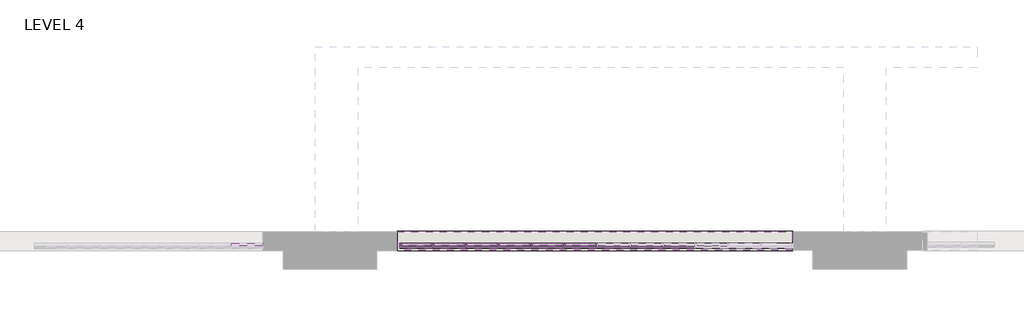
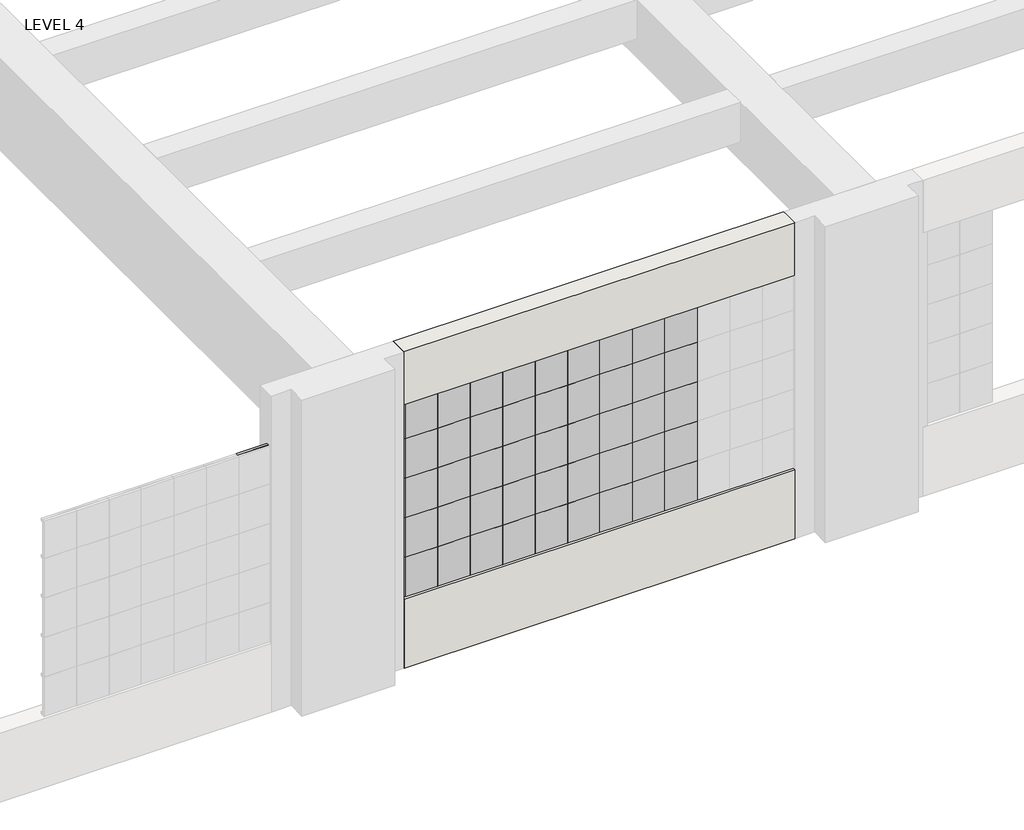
# One storey, part 2 of 26: 84 members, 45 plates, 2 walls.
"""IFC4 building model written with IfcOpenShell, lengths in millimetres."""

from ifc_helpers import new_model, si_unit, frame, origin, origin_with_axes, place, context, project, spatial, polyline, outline, extrude, transform, mapped, element, save
from components import member_038dcf1c, member_0e6c94ff, member_d9fec558, member_3d4b608b, member_3c10d71f, member_653bb31e, member_9ec6e97d, member_6e26db71, member_a1b9a255, member_f56b15f9, system_panel_glazed_ab35d819, system_panel_glazed_418eb6cd

model = new_model("IFC4")

# Units and contexts
model_context = context("Model", 3, world=origin())
ifc_project = project(units=[si_unit("LENGTHUNIT", "METRE", prefix="MILLI")], contexts=[model_context])

# Site, building, storey
site = spatial("IfcSite", under=ifc_project)
building = spatial("IfcBuilding", under=site)
storey = spatial("IfcBuildingStorey", under=building, Name="LEVEL 4", Elevation=0.0)

# Members
placement = place(None, origin())
member_shape = member_038dcf1c(model_context)
element("IfcMember", 1, ObjectType="Circular Mullion : 1 1/4\" Square", at=placement, inside=storey, context=model_context, shape_type="MappedRepresentation", body=[
    mapped(member_shape, transform((-42347.3709473, 87287.1352667, 2628.9), x_axis=(-1.0, 0.0, 0.0), y_axis=(0.0, -1.0, 0.0), z_axis=(0.0, 0.0, 1.0))),
])
element("IfcMember", 2, ObjectType="Circular Mullion : 1 1/4\" Square", at=placement, inside=storey, context=model_context, shape_type="MappedRepresentation", body=[
    mapped(member_shape, transform((-42347.3709473, 87287.1352667, 2171.7), x_axis=(-1.0, 0.0, 0.0), y_axis=(0.0, -1.0, 0.0), z_axis=(0.0, 0.0, 1.0))),
])
element("IfcMember", 3, ObjectType="Circular Mullion : 1 1/4\" Square", at=placement, inside=storey, context=model_context, shape_type="MappedRepresentation", body=[
    mapped(member_shape, transform((-42347.3709473, 87287.1352667, 1714.5), x_axis=(-1.0, 0.0, 0.0), y_axis=(0.0, -1.0, 0.0), z_axis=(0.0, 0.0, 1.0))),
])
element("IfcMember", 4, ObjectType="Circular Mullion : 1 1/4\" Square", at=placement, inside=storey, context=model_context, shape_type="MappedRepresentation", body=[
    mapped(member_shape, transform((-42347.3709473, 87287.1352667, 1257.3), x_axis=(-1.0, 0.0, 0.0), y_axis=(0.0, -1.0, 0.0), z_axis=(0.0, 0.0, 1.0))),
])
member_2_shape = member_0e6c94ff(model_context)
element("IfcMember", 5, ObjectType="Circular Mullion : 1 1/4\" Square", at=placement, inside=storey, context=model_context, shape_type="MappedRepresentation", body=[
    mapped(member_2_shape, transform((-42347.3709473, 87287.1352667, 3060.7), x_axis=(-1.0, 0.0, 0.0), y_axis=(0.0, -1.0, 0.0), z_axis=(0.0, 0.0, 1.0))),
])
member_3_shape = member_d9fec558(model_context)
element("IfcMember", 6, ObjectType="Circular Mullion : 1 1/4\" Square", at=placement, inside=storey, context=model_context, shape_type="MappedRepresentation", body=[
    mapped(member_3_shape, transform((-40213.770947, 87287.1352667, 2628.9), x_axis=(1.0, 0.0, 0.0), y_axis=(0.0, -1.0, 0.0), z_axis=(0.0, 0.0, -1.0))),
])
element("IfcMember", 7, ObjectType="Circular Mullion : 1 1/4\" Square", at=placement, inside=storey, context=model_context, shape_type="MappedRepresentation", body=[
    mapped(member_3_shape, transform((-40569.370947, 87287.1352667, 2628.9), x_axis=(1.0, 0.0, 0.0), y_axis=(0.0, -1.0, 0.0), z_axis=(0.0, 0.0, -1.0))),
])
element("IfcMember", 8, ObjectType="Circular Mullion : 1 1/4\" Square", at=placement, inside=storey, context=model_context, shape_type="MappedRepresentation", body=[
    mapped(member_3_shape, transform((-40924.970947, 87287.1352667, 2628.9), x_axis=(1.0, 0.0, 0.0), y_axis=(0.0, -1.0, 0.0), z_axis=(0.0, 0.0, -1.0))),
])
element("IfcMember", 9, ObjectType="Circular Mullion : 1 1/4\" Square", at=placement, inside=storey, context=model_context, shape_type="MappedRepresentation", body=[
    mapped(member_3_shape, transform((-41280.570947, 87287.1352667, 2628.9), x_axis=(1.0, 0.0, 0.0), y_axis=(0.0, -1.0, 0.0), z_axis=(0.0, 0.0, -1.0))),
])
element("IfcMember", 10, ObjectType="Circular Mullion : 1 1/4\" Square", at=placement, inside=storey, context=model_context, shape_type="MappedRepresentation", body=[
    mapped(member_3_shape, transform((-41636.170947, 87287.1352667, 2628.9), x_axis=(1.0, 0.0, 0.0), y_axis=(0.0, -1.0, 0.0), z_axis=(0.0, 0.0, -1.0))),
])
element("IfcMember", 11, ObjectType="Circular Mullion : 1 1/4\" Square", at=placement, inside=storey, context=model_context, shape_type="MappedRepresentation", body=[
    mapped(member_3_shape, transform((-41991.770947, 87287.1352667, 2628.9), x_axis=(1.0, 0.0, 0.0), y_axis=(0.0, -1.0, 0.0), z_axis=(0.0, 0.0, -1.0))),
])
member_4_shape = member_3d4b608b(model_context)
element("IfcMember", 12, ObjectType="Circular Mullion : 1 1/4\" Square", at=placement, inside=storey, context=model_context, shape_type="MappedRepresentation", body=[
    mapped(member_4_shape, transform((-40213.770947, 87287.1352667, 2171.7), x_axis=(1.0, 0.0, 0.0), y_axis=(0.0, -1.0, 0.0), z_axis=(0.0, 0.0, -1.0))),
])
element("IfcMember", 13, ObjectType="Circular Mullion : 1 1/4\" Square", at=placement, inside=storey, context=model_context, shape_type="MappedRepresentation", body=[
    mapped(member_4_shape, transform((-40213.770947, 87287.1352667, 1714.5), x_axis=(1.0, 0.0, 0.0), y_axis=(0.0, -1.0, 0.0), z_axis=(0.0, 0.0, -1.0))),
])
element("IfcMember", 14, ObjectType="Circular Mullion : 1 1/4\" Square", at=placement, inside=storey, context=model_context, shape_type="MappedRepresentation", body=[
    mapped(member_4_shape, transform((-40213.770947, 87287.1352667, 1257.3), x_axis=(1.0, 0.0, 0.0), y_axis=(0.0, -1.0, 0.0), z_axis=(0.0, 0.0, -1.0))),
])
element("IfcMember", 15, ObjectType="Circular Mullion : 1 1/4\" Square", at=placement, inside=storey, context=model_context, shape_type="MappedRepresentation", body=[
    mapped(member_4_shape, transform((-40569.370947, 87287.1352667, 2171.7), x_axis=(1.0, 0.0, 0.0), y_axis=(0.0, -1.0, 0.0), z_axis=(0.0, 0.0, -1.0))),
])
element("IfcMember", 16, ObjectType="Circular Mullion : 1 1/4\" Square", at=placement, inside=storey, context=model_context, shape_type="MappedRepresentation", body=[
    mapped(member_4_shape, transform((-40569.370947, 87287.1352667, 1714.5), x_axis=(1.0, 0.0, 0.0), y_axis=(0.0, -1.0, 0.0), z_axis=(0.0, 0.0, -1.0))),
])
element("IfcMember", 17, ObjectType="Circular Mullion : 1 1/4\" Square", at=placement, inside=storey, context=model_context, shape_type="MappedRepresentation", body=[
    mapped(member_4_shape, transform((-40569.370947, 87287.1352667, 1257.3), x_axis=(1.0, 0.0, 0.0), y_axis=(0.0, -1.0, 0.0), z_axis=(0.0, 0.0, -1.0))),
])
element("IfcMember", 18, ObjectType="Circular Mullion : 1 1/4\" Square", at=placement, inside=storey, context=model_context, shape_type="MappedRepresentation", body=[
    mapped(member_4_shape, transform((-40924.970947, 87287.1352667, 2171.7), x_axis=(1.0, 0.0, 0.0), y_axis=(0.0, -1.0, 0.0), z_axis=(0.0, 0.0, -1.0))),
])
element("IfcMember", 19, ObjectType="Circular Mullion : 1 1/4\" Square", at=placement, inside=storey, context=model_context, shape_type="MappedRepresentation", body=[
    mapped(member_4_shape, transform((-40924.970947, 87287.1352667, 1714.5), x_axis=(1.0, 0.0, 0.0), y_axis=(0.0, -1.0, 0.0), z_axis=(0.0, 0.0, -1.0))),
])
element("IfcMember", 20, ObjectType="Circular Mullion : 1 1/4\" Square", at=placement, inside=storey, context=model_context, shape_type="MappedRepresentation", body=[
    mapped(member_4_shape, transform((-40924.970947, 87287.1352667, 1257.3), x_axis=(1.0, 0.0, 0.0), y_axis=(0.0, -1.0, 0.0), z_axis=(0.0, 0.0, -1.0))),
])
element("IfcMember", 21, ObjectType="Circular Mullion : 1 1/4\" Square", at=placement, inside=storey, context=model_context, shape_type="MappedRepresentation", body=[
    mapped(member_4_shape, transform((-41280.570947, 87287.1352667, 2171.7), x_axis=(1.0, 0.0, 0.0), y_axis=(0.0, -1.0, 0.0), z_axis=(0.0, 0.0, -1.0))),
])
element("IfcMember", 22, ObjectType="Circular Mullion : 1 1/4\" Square", at=placement, inside=storey, context=model_context, shape_type="MappedRepresentation", body=[
    mapped(member_4_shape, transform((-41280.570947, 87287.1352667, 1714.5), x_axis=(1.0, 0.0, 0.0), y_axis=(0.0, -1.0, 0.0), z_axis=(0.0, 0.0, -1.0))),
])
element("IfcMember", 23, ObjectType="Circular Mullion : 1 1/4\" Square", at=placement, inside=storey, context=model_context, shape_type="MappedRepresentation", body=[
    mapped(member_4_shape, transform((-41280.570947, 87287.1352667, 1257.3), x_axis=(1.0, 0.0, 0.0), y_axis=(0.0, -1.0, 0.0), z_axis=(0.0, 0.0, -1.0))),
])
element("IfcMember", 24, ObjectType="Circular Mullion : 1 1/4\" Square", at=placement, inside=storey, context=model_context, shape_type="MappedRepresentation", body=[
    mapped(member_4_shape, transform((-41636.170947, 87287.1352667, 2171.7), x_axis=(1.0, 0.0, 0.0), y_axis=(0.0, -1.0, 0.0), z_axis=(0.0, 0.0, -1.0))),
])
element("IfcMember", 25, ObjectType="Circular Mullion : 1 1/4\" Square", at=placement, inside=storey, context=model_context, shape_type="MappedRepresentation", body=[
    mapped(member_4_shape, transform((-41636.170947, 87287.1352667, 1714.5), x_axis=(1.0, 0.0, 0.0), y_axis=(0.0, -1.0, 0.0), z_axis=(0.0, 0.0, -1.0))),
])
element("IfcMember", 26, ObjectType="Circular Mullion : 1 1/4\" Square", at=placement, inside=storey, context=model_context, shape_type="MappedRepresentation", body=[
    mapped(member_4_shape, transform((-41636.170947, 87287.1352667, 1257.3), x_axis=(1.0, 0.0, 0.0), y_axis=(0.0, -1.0, 0.0), z_axis=(0.0, 0.0, -1.0))),
])
element("IfcMember", 27, ObjectType="Circular Mullion : 1 1/4\" Square", at=placement, inside=storey, context=model_context, shape_type="MappedRepresentation", body=[
    mapped(member_4_shape, transform((-41991.770947, 87287.1352667, 2171.7), x_axis=(1.0, 0.0, 0.0), y_axis=(0.0, -1.0, 0.0), z_axis=(0.0, 0.0, -1.0))),
])
element("IfcMember", 28, ObjectType="Circular Mullion : 1 1/4\" Square", at=placement, inside=storey, context=model_context, shape_type="MappedRepresentation", body=[
    mapped(member_4_shape, transform((-41991.770947, 87287.1352667, 1714.5), x_axis=(1.0, 0.0, 0.0), y_axis=(0.0, -1.0, 0.0), z_axis=(0.0, 0.0, -1.0))),
])
element("IfcMember", 29, ObjectType="Circular Mullion : 1 1/4\" Square", at=placement, inside=storey, context=model_context, shape_type="MappedRepresentation", body=[
    mapped(member_4_shape, transform((-41991.770947, 87287.1352667, 1257.3), x_axis=(1.0, 0.0, 0.0), y_axis=(0.0, -1.0, 0.0), z_axis=(0.0, 0.0, -1.0))),
])
element("IfcMember", 30, ObjectType="Circular Mullion : 1 1/4\" Square", at=placement, inside=storey, context=model_context, shape_type="MappedRepresentation", body=[
    mapped(member_4_shape, transform((-40213.770947, 87287.1352667, 800.1), x_axis=(1.0, 0.0, 0.0), y_axis=(0.0, -1.0, 0.0), z_axis=(0.0, 0.0, -1.0))),
])
element("IfcMember", 31, ObjectType="Circular Mullion : 1 1/4\" Square", at=placement, inside=storey, context=model_context, shape_type="MappedRepresentation", body=[
    mapped(member_4_shape, transform((-40569.370947, 87287.1352667, 800.1), x_axis=(1.0, 0.0, 0.0), y_axis=(0.0, -1.0, 0.0), z_axis=(0.0, 0.0, -1.0))),
])
element("IfcMember", 32, ObjectType="Circular Mullion : 1 1/4\" Square", at=placement, inside=storey, context=model_context, shape_type="MappedRepresentation", body=[
    mapped(member_4_shape, transform((-40924.970947, 87287.1352667, 800.1), x_axis=(1.0, 0.0, 0.0), y_axis=(0.0, -1.0, 0.0), z_axis=(0.0, 0.0, -1.0))),
])
element("IfcMember", 33, ObjectType="Circular Mullion : 1 1/4\" Square", at=placement, inside=storey, context=model_context, shape_type="MappedRepresentation", body=[
    mapped(member_4_shape, transform((-41280.570947, 87287.1352667, 800.1), x_axis=(1.0, 0.0, 0.0), y_axis=(0.0, -1.0, 0.0), z_axis=(0.0, 0.0, -1.0))),
])
element("IfcMember", 34, ObjectType="Circular Mullion : 1 1/4\" Square", at=placement, inside=storey, context=model_context, shape_type="MappedRepresentation", body=[
    mapped(member_4_shape, transform((-41636.170947, 87287.1352667, 800.1), x_axis=(1.0, 0.0, 0.0), y_axis=(0.0, -1.0, 0.0), z_axis=(0.0, 0.0, -1.0))),
])
element("IfcMember", 35, ObjectType="Circular Mullion : 1 1/4\" Square", at=placement, inside=storey, context=model_context, shape_type="MappedRepresentation", body=[
    mapped(member_4_shape, transform((-41991.770947, 87287.1352667, 800.1), x_axis=(1.0, 0.0, 0.0), y_axis=(0.0, -1.0, 0.0), z_axis=(0.0, 0.0, -1.0))),
])
member_5_shape = member_3c10d71f(model_context)
element("IfcMember", 36, ObjectType="Circular Mullion : 1 1/4\" Square", at=placement, inside=storey, context=model_context, shape_type="MappedRepresentation", body=[
    mapped(member_5_shape, transform((-41648.870947, 87287.1352667, 3060.7), x_axis=(0.0, 0.0, 1.0), y_axis=(0.0, -1.0, 0.0), z_axis=(1.0, 0.0, 0.0))),
])
element("IfcMember", 37, ObjectType="Circular Mullion : 1 1/4\" Square", at=placement, inside=storey, context=model_context, shape_type="MappedRepresentation", body=[
    mapped(member_5_shape, transform((-41293.270947, 87287.1352667, 3060.7), x_axis=(0.0, 0.0, 1.0), y_axis=(0.0, -1.0, 0.0), z_axis=(1.0, 0.0, 0.0))),
])
element("IfcMember", 38, ObjectType="Circular Mullion : 1 1/4\" Square", at=placement, inside=storey, context=model_context, shape_type="MappedRepresentation", body=[
    mapped(member_5_shape, transform((-40937.670947, 87287.1352667, 3060.7), x_axis=(0.0, 0.0, 1.0), y_axis=(0.0, -1.0, 0.0), z_axis=(1.0, 0.0, 0.0))),
])
element("IfcMember", 39, ObjectType="Circular Mullion : 1 1/4\" Square", at=placement, inside=storey, context=model_context, shape_type="MappedRepresentation", body=[
    mapped(member_5_shape, transform((-40582.070947, 87287.1352667, 3060.7), x_axis=(0.0, 0.0, 1.0), y_axis=(0.0, -1.0, 0.0), z_axis=(1.0, 0.0, 0.0))),
])
element("IfcMember", 40, ObjectType="Circular Mullion : 1 1/4\" Square", at=placement, inside=storey, context=model_context, shape_type="MappedRepresentation", body=[
    mapped(member_5_shape, transform((-40226.470947, 87287.1352667, 3060.7), x_axis=(0.0, 0.0, 1.0), y_axis=(0.0, -1.0, 0.0), z_axis=(1.0, 0.0, 0.0))),
])
element("IfcMember", 41, ObjectType="Circular Mullion : 1 1/4\" Square", at=placement, inside=storey, context=model_context, shape_type="MappedRepresentation", body=[
    mapped(member_5_shape, transform((-39870.870947, 87287.1352667, 3060.7), x_axis=(0.0, 0.0, 1.0), y_axis=(0.0, -1.0, 0.0), z_axis=(1.0, 0.0, 0.0))),
])
element("IfcMember", 42, ObjectType="Circular Mullion : 1 1/4\" Square", at=placement, inside=storey, context=model_context, shape_type="MappedRepresentation", body=[
    mapped(member_5_shape, transform((-39515.270947, 87287.1352667, 3060.7), x_axis=(0.0, 0.0, 1.0), y_axis=(0.0, -1.0, 0.0), z_axis=(1.0, 0.0, 0.0))),
])
element("IfcMember", 43, ObjectType="Circular Mullion : 1 1/4\" Square", at=placement, inside=storey, context=model_context, shape_type="MappedRepresentation", body=[
    mapped(member_5_shape, transform((-39159.670947, 87287.1352667, 3060.7), x_axis=(0.0, 0.0, 1.0), y_axis=(0.0, -1.0, 0.0), z_axis=(1.0, 0.0, 0.0))),
])
element("IfcMember", 44, ObjectType="Circular Mullion : 1 1/4\" Square", at=placement, inside=storey, context=model_context, shape_type="MappedRepresentation", body=[
    mapped(member_5_shape, transform((-41623.470947, 87287.1352667, 800.1), x_axis=(0.0, 0.0, -1.0), y_axis=(0.0, -1.0, 0.0), z_axis=(-1.0, 0.0, 0.0))),
])
element("IfcMember", 45, ObjectType="Circular Mullion : 1 1/4\" Square", at=placement, inside=storey, context=model_context, shape_type="MappedRepresentation", body=[
    mapped(member_5_shape, transform((-41979.070947, 87287.1352667, 800.1), x_axis=(0.0, 0.0, -1.0), y_axis=(0.0, -1.0, 0.0), z_axis=(-1.0, 0.0, 0.0))),
])
element("IfcMember", 46, ObjectType="Circular Mullion : 1 1/4\" Square", at=placement, inside=storey, context=model_context, shape_type="MappedRepresentation", body=[
    mapped(member_5_shape, transform((-41267.870947, 87287.1352667, 800.1), x_axis=(0.0, 0.0, -1.0), y_axis=(0.0, -1.0, 0.0), z_axis=(-1.0, 0.0, 0.0))),
])
element("IfcMember", 47, ObjectType="Circular Mullion : 1 1/4\" Square", at=placement, inside=storey, context=model_context, shape_type="MappedRepresentation", body=[
    mapped(member_5_shape, transform((-40912.270947, 87287.1352667, 800.1), x_axis=(0.0, 0.0, -1.0), y_axis=(0.0, -1.0, 0.0), z_axis=(-1.0, 0.0, 0.0))),
])
element("IfcMember", 48, ObjectType="Circular Mullion : 1 1/4\" Square", at=placement, inside=storey, context=model_context, shape_type="MappedRepresentation", body=[
    mapped(member_5_shape, transform((-40556.670947, 87287.1352667, 800.1), x_axis=(0.0, 0.0, -1.0), y_axis=(0.0, -1.0, 0.0), z_axis=(-1.0, 0.0, 0.0))),
])
element("IfcMember", 49, ObjectType="Circular Mullion : 1 1/4\" Square", at=placement, inside=storey, context=model_context, shape_type="MappedRepresentation", body=[
    mapped(member_5_shape, transform((-40201.070947, 87287.1352667, 800.1), x_axis=(0.0, 0.0, -1.0), y_axis=(0.0, -1.0, 0.0), z_axis=(-1.0, 0.0, 0.0))),
])
element("IfcMember", 50, ObjectType="Circular Mullion : 1 1/4\" Square", at=placement, inside=storey, context=model_context, shape_type="MappedRepresentation", body=[
    mapped(member_5_shape, transform((-39845.470947, 87287.1352667, 800.1), x_axis=(0.0, 0.0, -1.0), y_axis=(0.0, -1.0, 0.0), z_axis=(-1.0, 0.0, 0.0))),
])
element("IfcMember", 51, ObjectType="Circular Mullion : 1 1/4\" Square", at=placement, inside=storey, context=model_context, shape_type="MappedRepresentation", body=[
    mapped(member_5_shape, transform((-39489.870947, 87287.1352667, 800.1), x_axis=(0.0, 0.0, -1.0), y_axis=(0.0, -1.0, 0.0), z_axis=(-1.0, 0.0, 0.0))),
])
element("IfcMember", 52, ObjectType="Circular Mullion : 1 1/4\" Square", at=placement, inside=storey, context=model_context, shape_type="MappedRepresentation", body=[
    mapped(member_5_shape, transform((-39134.270947, 87287.1352667, 800.1), x_axis=(0.0, 0.0, -1.0), y_axis=(0.0, -1.0, 0.0), z_axis=(-1.0, 0.0, 0.0))),
])
member_6_shape = member_653bb31e(model_context)
element("IfcMember", 53, ObjectType="Circular Mullion : 1 1/4\" Square", at=placement, inside=storey, context=model_context, shape_type="MappedRepresentation", body=[
    mapped(member_6_shape, transform((-41293.270947, 87287.1352667, 2171.7), x_axis=(0.0, 0.0, 1.0), y_axis=(0.0, -1.0, 0.0), z_axis=(1.0, 0.0, 0.0))),
])
element("IfcMember", 54, ObjectType="Circular Mullion : 1 1/4\" Square", at=placement, inside=storey, context=model_context, shape_type="MappedRepresentation", body=[
    mapped(member_6_shape, transform((-41648.870947, 87287.1352667, 2171.7), x_axis=(0.0, 0.0, 1.0), y_axis=(0.0, -1.0, 0.0), z_axis=(1.0, 0.0, 0.0))),
])
element("IfcMember", 55, ObjectType="Circular Mullion : 1 1/4\" Square", at=placement, inside=storey, context=model_context, shape_type="MappedRepresentation", body=[
    mapped(member_6_shape, transform((-40937.670947, 87287.1352667, 2171.7), x_axis=(0.0, 0.0, 1.0), y_axis=(0.0, -1.0, 0.0), z_axis=(1.0, 0.0, 0.0))),
])
element("IfcMember", 56, ObjectType="Circular Mullion : 1 1/4\" Square", at=placement, inside=storey, context=model_context, shape_type="MappedRepresentation", body=[
    mapped(member_6_shape, transform((-40582.070947, 87287.1352667, 2171.7), x_axis=(0.0, 0.0, 1.0), y_axis=(0.0, -1.0, 0.0), z_axis=(1.0, 0.0, 0.0))),
])
element("IfcMember", 57, ObjectType="Circular Mullion : 1 1/4\" Square", at=placement, inside=storey, context=model_context, shape_type="MappedRepresentation", body=[
    mapped(member_6_shape, transform((-40226.470947, 87287.1352667, 2171.7), x_axis=(0.0, 0.0, 1.0), y_axis=(0.0, -1.0, 0.0), z_axis=(1.0, 0.0, 0.0))),
])
element("IfcMember", 58, ObjectType="Circular Mullion : 1 1/4\" Square", at=placement, inside=storey, context=model_context, shape_type="MappedRepresentation", body=[
    mapped(member_6_shape, transform((-39870.870947, 87287.1352667, 2171.7), x_axis=(0.0, 0.0, 1.0), y_axis=(0.0, -1.0, 0.0), z_axis=(1.0, 0.0, 0.0))),
])
element("IfcMember", 59, ObjectType="Circular Mullion : 1 1/4\" Square", at=placement, inside=storey, context=model_context, shape_type="MappedRepresentation", body=[
    mapped(member_6_shape, transform((-41293.270947, 87287.1352667, 1714.5), x_axis=(0.0, 0.0, 1.0), y_axis=(0.0, -1.0, 0.0), z_axis=(1.0, 0.0, 0.0))),
])
element("IfcMember", 60, ObjectType="Circular Mullion : 1 1/4\" Square", at=placement, inside=storey, context=model_context, shape_type="MappedRepresentation", body=[
    mapped(member_6_shape, transform((-41648.870947, 87287.1352667, 1714.5), x_axis=(0.0, 0.0, 1.0), y_axis=(0.0, -1.0, 0.0), z_axis=(1.0, 0.0, 0.0))),
])
element("IfcMember", 61, ObjectType="Circular Mullion : 1 1/4\" Square", at=placement, inside=storey, context=model_context, shape_type="MappedRepresentation", body=[
    mapped(member_6_shape, transform((-40937.670947, 87287.1352667, 1714.5), x_axis=(0.0, 0.0, 1.0), y_axis=(0.0, -1.0, 0.0), z_axis=(1.0, 0.0, 0.0))),
])
element("IfcMember", 62, ObjectType="Circular Mullion : 1 1/4\" Square", at=placement, inside=storey, context=model_context, shape_type="MappedRepresentation", body=[
    mapped(member_6_shape, transform((-40582.070947, 87287.1352667, 1714.5), x_axis=(0.0, 0.0, 1.0), y_axis=(0.0, -1.0, 0.0), z_axis=(1.0, 0.0, 0.0))),
])
element("IfcMember", 63, ObjectType="Circular Mullion : 1 1/4\" Square", at=placement, inside=storey, context=model_context, shape_type="MappedRepresentation", body=[
    mapped(member_6_shape, transform((-40226.470947, 87287.1352667, 1714.5), x_axis=(0.0, 0.0, 1.0), y_axis=(0.0, -1.0, 0.0), z_axis=(1.0, 0.0, 0.0))),
])
element("IfcMember", 64, ObjectType="Circular Mullion : 1 1/4\" Square", at=placement, inside=storey, context=model_context, shape_type="MappedRepresentation", body=[
    mapped(member_6_shape, transform((-41293.270947, 87287.1352667, 1257.3), x_axis=(0.0, 0.0, 1.0), y_axis=(0.0, -1.0, 0.0), z_axis=(1.0, 0.0, 0.0))),
])
element("IfcMember", 65, ObjectType="Circular Mullion : 1 1/4\" Square", at=placement, inside=storey, context=model_context, shape_type="MappedRepresentation", body=[
    mapped(member_6_shape, transform((-41648.870947, 87287.1352667, 1257.3), x_axis=(0.0, 0.0, 1.0), y_axis=(0.0, -1.0, 0.0), z_axis=(1.0, 0.0, 0.0))),
])
element("IfcMember", 66, ObjectType="Circular Mullion : 1 1/4\" Square", at=placement, inside=storey, context=model_context, shape_type="MappedRepresentation", body=[
    mapped(member_6_shape, transform((-40937.670947, 87287.1352667, 1257.3), x_axis=(0.0, 0.0, 1.0), y_axis=(0.0, -1.0, 0.0), z_axis=(1.0, 0.0, 0.0))),
])
element("IfcMember", 67, ObjectType="Circular Mullion : 1 1/4\" Square", at=placement, inside=storey, context=model_context, shape_type="MappedRepresentation", body=[
    mapped(member_6_shape, transform((-40582.070947, 87287.1352667, 1257.3), x_axis=(0.0, 0.0, 1.0), y_axis=(0.0, -1.0, 0.0), z_axis=(1.0, 0.0, 0.0))),
])
element("IfcMember", 68, ObjectType="Circular Mullion : 1 1/4\" Square", at=placement, inside=storey, context=model_context, shape_type="MappedRepresentation", body=[
    mapped(member_6_shape, transform((-40226.470947, 87287.1352667, 1257.3), x_axis=(0.0, 0.0, 1.0), y_axis=(0.0, -1.0, 0.0), z_axis=(1.0, 0.0, 0.0))),
])
element("IfcMember", 69, ObjectType="Circular Mullion : 1 1/4\" Square", at=placement, inside=storey, context=model_context, shape_type="MappedRepresentation", body=[
    mapped(member_6_shape, transform((-41293.270947, 87287.1352667, 2628.9), x_axis=(0.0, 0.0, 1.0), y_axis=(0.0, -1.0, 0.0), z_axis=(1.0, 0.0, 0.0))),
])
element("IfcMember", 70, ObjectType="Circular Mullion : 1 1/4\" Square", at=placement, inside=storey, context=model_context, shape_type="MappedRepresentation", body=[
    mapped(member_6_shape, transform((-41648.870947, 87287.1352667, 2628.9), x_axis=(0.0, 0.0, 1.0), y_axis=(0.0, -1.0, 0.0), z_axis=(1.0, 0.0, 0.0))),
])
element("IfcMember", 71, ObjectType="Circular Mullion : 1 1/4\" Square", at=placement, inside=storey, context=model_context, shape_type="MappedRepresentation", body=[
    mapped(member_6_shape, transform((-40937.670947, 87287.1352667, 2628.9), x_axis=(0.0, 0.0, 1.0), y_axis=(0.0, -1.0, 0.0), z_axis=(1.0, 0.0, 0.0))),
])
element("IfcMember", 72, ObjectType="Circular Mullion : 1 1/4\" Square", at=placement, inside=storey, context=model_context, shape_type="MappedRepresentation", body=[
    mapped(member_6_shape, transform((-40582.070947, 87287.1352667, 2628.9), x_axis=(0.0, 0.0, 1.0), y_axis=(0.0, -1.0, 0.0), z_axis=(1.0, 0.0, 0.0))),
])
element("IfcMember", 73, ObjectType="Circular Mullion : 1 1/4\" Square", at=placement, inside=storey, context=model_context, shape_type="MappedRepresentation", body=[
    mapped(member_6_shape, transform((-40226.470947, 87287.1352667, 2628.9), x_axis=(0.0, 0.0, 1.0), y_axis=(0.0, -1.0, 0.0), z_axis=(1.0, 0.0, 0.0))),
])
member_7_shape = member_9ec6e97d(model_context)
element("IfcMember", 74, ObjectType="Circular Mullion : 1 1/4\" Square", at=placement, inside=storey, context=model_context, shape_type="MappedRepresentation", body=[
    mapped(member_7_shape, transform((-42004.470947, 87287.1352667, 3060.7), x_axis=(0.0, 0.0, 1.0), y_axis=(0.0, -1.0, 0.0), z_axis=(1.0, 0.0, 0.0))),
])
element("IfcMember", 75, ObjectType="Circular Mullion : 1 1/4\" Square", at=placement, inside=storey, context=model_context, shape_type="MappedRepresentation", body=[
    mapped(member_7_shape, transform((-42321.9709473, 87287.1352667, 800.1), x_axis=(0.0, 0.0, -1.0), y_axis=(0.0, -1.0, 0.0), z_axis=(-1.0, 0.0, 0.0))),
])
member_8_shape = member_6e26db71(model_context)
element("IfcMember", 76, ObjectType="Circular Mullion : 1 1/4\" Square", at=placement, inside=storey, context=model_context, shape_type="MappedRepresentation", body=[
    mapped(member_8_shape, transform((-42004.470947, 87287.1352667, 2171.7), x_axis=(0.0, 0.0, 1.0), y_axis=(0.0, -1.0, 0.0), z_axis=(1.0, 0.0, 0.0))),
])
element("IfcMember", 77, ObjectType="Circular Mullion : 1 1/4\" Square", at=placement, inside=storey, context=model_context, shape_type="MappedRepresentation", body=[
    mapped(member_8_shape, transform((-42004.470947, 87287.1352667, 1714.5), x_axis=(0.0, 0.0, 1.0), y_axis=(0.0, -1.0, 0.0), z_axis=(1.0, 0.0, 0.0))),
])
element("IfcMember", 78, ObjectType="Circular Mullion : 1 1/4\" Square", at=placement, inside=storey, context=model_context, shape_type="MappedRepresentation", body=[
    mapped(member_8_shape, transform((-42004.470947, 87287.1352667, 1257.3), x_axis=(0.0, 0.0, 1.0), y_axis=(0.0, -1.0, 0.0), z_axis=(1.0, 0.0, 0.0))),
])
element("IfcMember", 79, ObjectType="Circular Mullion : 1 1/4\" Square", at=placement, inside=storey, context=model_context, shape_type="MappedRepresentation", body=[
    mapped(member_8_shape, transform((-42004.470947, 87287.1352667, 2628.9), x_axis=(0.0, 0.0, 1.0), y_axis=(0.0, -1.0, 0.0), z_axis=(1.0, 0.0, 0.0))),
])
member_9_shape = member_a1b9a255(model_context)
element("IfcMember", 80, ObjectType="Circular Mullion : 1 1/4\" Square", at=placement, inside=storey, context=model_context, shape_type="MappedRepresentation", body=[
    mapped(member_9_shape, transform((-43826.9209473, 87285.9413633, 3060.7), x_axis=(0.0, 0.0, 1.0), y_axis=(0.0, -1.0, 0.0), z_axis=(1.0, 0.0, 0.0))),
])
member_10_shape = member_f56b15f9(model_context)
element("IfcMember", 81, ObjectType="Circular Mullion : 1 1/4\" Square", at=placement, inside=storey, context=model_context, shape_type="MappedRepresentation", body=[
    mapped(member_10_shape, transform((-43826.9209473, 87285.9413633, 1257.3), x_axis=(0.0, 0.0, 1.0), y_axis=(0.0, -1.0, 0.0), z_axis=(1.0, 0.0, 0.0))),
])
element("IfcMember", 82, ObjectType="Circular Mullion : 1 1/4\" Square", at=placement, inside=storey, context=model_context, shape_type="MappedRepresentation", body=[
    mapped(member_10_shape, transform((-43826.9209473, 87285.9413633, 1714.5), x_axis=(0.0, 0.0, 1.0), y_axis=(0.0, -1.0, 0.0), z_axis=(1.0, 0.0, 0.0))),
])
element("IfcMember", 83, ObjectType="Circular Mullion : 1 1/4\" Square", at=placement, inside=storey, context=model_context, shape_type="MappedRepresentation", body=[
    mapped(member_10_shape, transform((-43826.9209473, 87285.9413633, 2171.7), x_axis=(0.0, 0.0, 1.0), y_axis=(0.0, -1.0, 0.0), z_axis=(1.0, 0.0, 0.0))),
])
element("IfcMember", 84, ObjectType="Circular Mullion : 1 1/4\" Square", at=placement, inside=storey, context=model_context, shape_type="MappedRepresentation", body=[
    mapped(member_10_shape, transform((-43826.9209473, 87285.9413633, 2628.9), x_axis=(0.0, 0.0, 1.0), y_axis=(0.0, -1.0, 0.0), z_axis=(1.0, 0.0, 0.0))),
])

# Plates
system_panel_glazed_shape = system_panel_glazed_ab35d819(model_context)
element("IfcPlate", 85, ObjectType="System Panel : Glazed", at=placement, inside=storey, context=model_context, shape_type="MappedRepresentation", body=[
    mapped(system_panel_glazed_shape, transform((-42169.5709471, 87287.1352667, 800.1), x_axis=(1.0, 0.0, 0.0), y_axis=(0.0, 1.0, 0.0), z_axis=(0.0, 0.0, 1.0))),
])
element("IfcPlate", 86, ObjectType="System Panel : Glazed", at=placement, inside=storey, context=model_context, shape_type="MappedRepresentation", body=[
    mapped(system_panel_glazed_shape, transform((-39324.770947, 87287.1352667, 800.1), x_axis=(1.0, 0.0, 0.0), y_axis=(0.0, 1.0, 0.0), z_axis=(0.0, 0.0, 1.0))),
])
element("IfcPlate", 87, ObjectType="System Panel : Glazed", at=placement, inside=storey, context=model_context, shape_type="MappedRepresentation", body=[
    mapped(system_panel_glazed_shape, transform((-39680.370947, 87287.1352667, 800.1), x_axis=(1.0, 0.0, 0.0), y_axis=(0.0, 1.0, 0.0), z_axis=(0.0, 0.0, 1.0))),
])
element("IfcPlate", 88, ObjectType="System Panel : Glazed", at=placement, inside=storey, context=model_context, shape_type="MappedRepresentation", body=[
    mapped(system_panel_glazed_shape, transform((-40035.970947, 87287.1352667, 800.1), x_axis=(1.0, 0.0, 0.0), y_axis=(0.0, 1.0, 0.0), z_axis=(0.0, 0.0, 1.0))),
])
element("IfcPlate", 89, ObjectType="System Panel : Glazed", at=placement, inside=storey, context=model_context, shape_type="MappedRepresentation", body=[
    mapped(system_panel_glazed_shape, transform((-40391.570947, 87287.1352667, 800.1), x_axis=(1.0, 0.0, 0.0), y_axis=(0.0, 1.0, 0.0), z_axis=(0.0, 0.0, 1.0))),
])
element("IfcPlate", 90, ObjectType="System Panel : Glazed", at=placement, inside=storey, context=model_context, shape_type="MappedRepresentation", body=[
    mapped(system_panel_glazed_shape, transform((-40747.170947, 87287.1352667, 800.1), x_axis=(1.0, 0.0, 0.0), y_axis=(0.0, 1.0, 0.0), z_axis=(0.0, 0.0, 1.0))),
])
element("IfcPlate", 91, ObjectType="System Panel : Glazed", at=placement, inside=storey, context=model_context, shape_type="MappedRepresentation", body=[
    mapped(system_panel_glazed_shape, transform((-41102.770947, 87287.1352667, 800.1), x_axis=(1.0, 0.0, 0.0), y_axis=(0.0, 1.0, 0.0), z_axis=(0.0, 0.0, 1.0))),
])
element("IfcPlate", 92, ObjectType="System Panel : Glazed", at=placement, inside=storey, context=model_context, shape_type="MappedRepresentation", body=[
    mapped(system_panel_glazed_shape, transform((-42169.5709471, 87287.1352667, 1257.3), x_axis=(1.0, 0.0, 0.0), y_axis=(0.0, 1.0, 0.0), z_axis=(0.0, 0.0, 1.0))),
])
element("IfcPlate", 93, ObjectType="System Panel : Glazed", at=placement, inside=storey, context=model_context, shape_type="MappedRepresentation", body=[
    mapped(system_panel_glazed_shape, transform((-39324.770947, 87287.1352667, 1257.3), x_axis=(1.0, 0.0, 0.0), y_axis=(0.0, 1.0, 0.0), z_axis=(0.0, 0.0, 1.0))),
])
element("IfcPlate", 94, ObjectType="System Panel : Glazed", at=placement, inside=storey, context=model_context, shape_type="MappedRepresentation", body=[
    mapped(system_panel_glazed_shape, transform((-39680.370947, 87287.1352667, 1257.3), x_axis=(1.0, 0.0, 0.0), y_axis=(0.0, 1.0, 0.0), z_axis=(0.0, 0.0, 1.0))),
])
element("IfcPlate", 95, ObjectType="System Panel : Glazed", at=placement, inside=storey, context=model_context, shape_type="MappedRepresentation", body=[
    mapped(system_panel_glazed_shape, transform((-40035.970947, 87287.1352667, 1257.3), x_axis=(1.0, 0.0, 0.0), y_axis=(0.0, 1.0, 0.0), z_axis=(0.0, 0.0, 1.0))),
])
element("IfcPlate", 96, ObjectType="System Panel : Glazed", at=placement, inside=storey, context=model_context, shape_type="MappedRepresentation", body=[
    mapped(system_panel_glazed_shape, transform((-40391.570947, 87287.1352667, 1257.3), x_axis=(1.0, 0.0, 0.0), y_axis=(0.0, 1.0, 0.0), z_axis=(0.0, 0.0, 1.0))),
])
element("IfcPlate", 97, ObjectType="System Panel : Glazed", at=placement, inside=storey, context=model_context, shape_type="MappedRepresentation", body=[
    mapped(system_panel_glazed_shape, transform((-40747.170947, 87287.1352667, 1257.3), x_axis=(1.0, 0.0, 0.0), y_axis=(0.0, 1.0, 0.0), z_axis=(0.0, 0.0, 1.0))),
])
element("IfcPlate", 98, ObjectType="System Panel : Glazed", at=placement, inside=storey, context=model_context, shape_type="MappedRepresentation", body=[
    mapped(system_panel_glazed_shape, transform((-41102.770947, 87287.1352667, 1257.3), x_axis=(1.0, 0.0, 0.0), y_axis=(0.0, 1.0, 0.0), z_axis=(0.0, 0.0, 1.0))),
])
element("IfcPlate", 99, ObjectType="System Panel : Glazed", at=placement, inside=storey, context=model_context, shape_type="MappedRepresentation", body=[
    mapped(system_panel_glazed_shape, transform((-42169.5709471, 87287.1352667, 1714.5), x_axis=(1.0, 0.0, 0.0), y_axis=(0.0, 1.0, 0.0), z_axis=(0.0, 0.0, 1.0))),
])
element("IfcPlate", 100, ObjectType="System Panel : Glazed", at=placement, inside=storey, context=model_context, shape_type="MappedRepresentation", body=[
    mapped(system_panel_glazed_shape, transform((-39324.770947, 87287.1352667, 1714.5), x_axis=(1.0, 0.0, 0.0), y_axis=(0.0, 1.0, 0.0), z_axis=(0.0, 0.0, 1.0))),
])
element("IfcPlate", 101, ObjectType="System Panel : Glazed", at=placement, inside=storey, context=model_context, shape_type="MappedRepresentation", body=[
    mapped(system_panel_glazed_shape, transform((-39680.370947, 87287.1352667, 1714.5), x_axis=(1.0, 0.0, 0.0), y_axis=(0.0, 1.0, 0.0), z_axis=(0.0, 0.0, 1.0))),
])
element("IfcPlate", 102, ObjectType="System Panel : Glazed", at=placement, inside=storey, context=model_context, shape_type="MappedRepresentation", body=[
    mapped(system_panel_glazed_shape, transform((-40035.970947, 87287.1352667, 1714.5), x_axis=(1.0, 0.0, 0.0), y_axis=(0.0, 1.0, 0.0), z_axis=(0.0, 0.0, 1.0))),
])
element("IfcPlate", 103, ObjectType="System Panel : Glazed", at=placement, inside=storey, context=model_context, shape_type="MappedRepresentation", body=[
    mapped(system_panel_glazed_shape, transform((-40391.570947, 87287.1352667, 1714.5), x_axis=(1.0, 0.0, 0.0), y_axis=(0.0, 1.0, 0.0), z_axis=(0.0, 0.0, 1.0))),
])
element("IfcPlate", 104, ObjectType="System Panel : Glazed", at=placement, inside=storey, context=model_context, shape_type="MappedRepresentation", body=[
    mapped(system_panel_glazed_shape, transform((-40747.170947, 87287.1352667, 1714.5), x_axis=(1.0, 0.0, 0.0), y_axis=(0.0, 1.0, 0.0), z_axis=(0.0, 0.0, 1.0))),
])
element("IfcPlate", 105, ObjectType="System Panel : Glazed", at=placement, inside=storey, context=model_context, shape_type="MappedRepresentation", body=[
    mapped(system_panel_glazed_shape, transform((-41102.770947, 87287.1352667, 1714.5), x_axis=(1.0, 0.0, 0.0), y_axis=(0.0, 1.0, 0.0), z_axis=(0.0, 0.0, 1.0))),
])
element("IfcPlate", 106, ObjectType="System Panel : Glazed", at=placement, inside=storey, context=model_context, shape_type="MappedRepresentation", body=[
    mapped(system_panel_glazed_shape, transform((-42169.5709471, 87287.1352667, 2171.7), x_axis=(1.0, 0.0, 0.0), y_axis=(0.0, 1.0, 0.0), z_axis=(0.0, 0.0, 1.0))),
])
element("IfcPlate", 107, ObjectType="System Panel : Glazed", at=placement, inside=storey, context=model_context, shape_type="MappedRepresentation", body=[
    mapped(system_panel_glazed_shape, transform((-39324.770947, 87287.1352667, 2171.7), x_axis=(1.0, 0.0, 0.0), y_axis=(0.0, 1.0, 0.0), z_axis=(0.0, 0.0, 1.0))),
])
element("IfcPlate", 108, ObjectType="System Panel : Glazed", at=placement, inside=storey, context=model_context, shape_type="MappedRepresentation", body=[
    mapped(system_panel_glazed_shape, transform((-39680.370947, 87287.1352667, 2171.7), x_axis=(1.0, 0.0, 0.0), y_axis=(0.0, 1.0, 0.0), z_axis=(0.0, 0.0, 1.0))),
])
element("IfcPlate", 109, ObjectType="System Panel : Glazed", at=placement, inside=storey, context=model_context, shape_type="MappedRepresentation", body=[
    mapped(system_panel_glazed_shape, transform((-40035.970947, 87287.1352667, 2171.7), x_axis=(1.0, 0.0, 0.0), y_axis=(0.0, 1.0, 0.0), z_axis=(0.0, 0.0, 1.0))),
])
element("IfcPlate", 110, ObjectType="System Panel : Glazed", at=placement, inside=storey, context=model_context, shape_type="MappedRepresentation", body=[
    mapped(system_panel_glazed_shape, transform((-40391.570947, 87287.1352667, 2171.7), x_axis=(1.0, 0.0, 0.0), y_axis=(0.0, 1.0, 0.0), z_axis=(0.0, 0.0, 1.0))),
])
element("IfcPlate", 111, ObjectType="System Panel : Glazed", at=placement, inside=storey, context=model_context, shape_type="MappedRepresentation", body=[
    mapped(system_panel_glazed_shape, transform((-40747.170947, 87287.1352667, 2171.7), x_axis=(1.0, 0.0, 0.0), y_axis=(0.0, 1.0, 0.0), z_axis=(0.0, 0.0, 1.0))),
])
element("IfcPlate", 112, ObjectType="System Panel : Glazed", at=placement, inside=storey, context=model_context, shape_type="MappedRepresentation", body=[
    mapped(system_panel_glazed_shape, transform((-41102.770947, 87287.1352667, 2171.7), x_axis=(1.0, 0.0, 0.0), y_axis=(0.0, 1.0, 0.0), z_axis=(0.0, 0.0, 1.0))),
])
element("IfcPlate", 113, ObjectType="System Panel : Glazed", at=placement, inside=storey, context=model_context, shape_type="MappedRepresentation", body=[
    mapped(system_panel_glazed_shape, transform((-41813.970947, 87287.1352667, 800.1), x_axis=(1.0, 0.0, 0.0), y_axis=(0.0, 1.0, 0.0), z_axis=(0.0, 0.0, 1.0))),
])
element("IfcPlate", 114, ObjectType="System Panel : Glazed", at=placement, inside=storey, context=model_context, shape_type="MappedRepresentation", body=[
    mapped(system_panel_glazed_shape, transform((-41813.970947, 87287.1352667, 1257.3), x_axis=(1.0, 0.0, 0.0), y_axis=(0.0, 1.0, 0.0), z_axis=(0.0, 0.0, 1.0))),
])
element("IfcPlate", 115, ObjectType="System Panel : Glazed", at=placement, inside=storey, context=model_context, shape_type="MappedRepresentation", body=[
    mapped(system_panel_glazed_shape, transform((-41813.970947, 87287.1352667, 1714.5), x_axis=(1.0, 0.0, 0.0), y_axis=(0.0, 1.0, 0.0), z_axis=(0.0, 0.0, 1.0))),
])
element("IfcPlate", 116, ObjectType="System Panel : Glazed", at=placement, inside=storey, context=model_context, shape_type="MappedRepresentation", body=[
    mapped(system_panel_glazed_shape, transform((-41813.970947, 87287.1352667, 2171.7), x_axis=(1.0, 0.0, 0.0), y_axis=(0.0, 1.0, 0.0), z_axis=(0.0, 0.0, 1.0))),
])
element("IfcPlate", 117, ObjectType="System Panel : Glazed", at=placement, inside=storey, context=model_context, shape_type="MappedRepresentation", body=[
    mapped(system_panel_glazed_shape, transform((-41458.370947, 87287.1352667, 800.1), x_axis=(1.0, 0.0, 0.0), y_axis=(0.0, 1.0, 0.0), z_axis=(0.0, 0.0, 1.0))),
])
element("IfcPlate", 118, ObjectType="System Panel : Glazed", at=placement, inside=storey, context=model_context, shape_type="MappedRepresentation", body=[
    mapped(system_panel_glazed_shape, transform((-41458.370947, 87287.1352667, 1257.3), x_axis=(1.0, 0.0, 0.0), y_axis=(0.0, 1.0, 0.0), z_axis=(0.0, 0.0, 1.0))),
])
element("IfcPlate", 119, ObjectType="System Panel : Glazed", at=placement, inside=storey, context=model_context, shape_type="MappedRepresentation", body=[
    mapped(system_panel_glazed_shape, transform((-41458.370947, 87287.1352667, 1714.5), x_axis=(1.0, 0.0, 0.0), y_axis=(0.0, 1.0, 0.0), z_axis=(0.0, 0.0, 1.0))),
])
element("IfcPlate", 120, ObjectType="System Panel : Glazed", at=placement, inside=storey, context=model_context, shape_type="MappedRepresentation", body=[
    mapped(system_panel_glazed_shape, transform((-41458.370947, 87287.1352667, 2171.7), x_axis=(1.0, 0.0, 0.0), y_axis=(0.0, 1.0, 0.0), z_axis=(0.0, 0.0, 1.0))),
])
system_panel_glazed_2_shape = system_panel_glazed_418eb6cd(model_context)
element("IfcPlate", 121, ObjectType="System Panel : Glazed", at=placement, inside=storey, context=model_context, shape_type="MappedRepresentation", body=[
    mapped(system_panel_glazed_2_shape, transform((-42169.5709471, 87287.1352667, 2628.9), x_axis=(1.0, 0.0, 0.0), y_axis=(0.0, 1.0, 0.0), z_axis=(0.0, 0.0, 1.0))),
])
element("IfcPlate", 122, ObjectType="System Panel : Glazed", at=placement, inside=storey, context=model_context, shape_type="MappedRepresentation", body=[
    mapped(system_panel_glazed_2_shape, transform((-39324.770947, 87287.1352667, 2628.9), x_axis=(1.0, 0.0, 0.0), y_axis=(0.0, 1.0, 0.0), z_axis=(0.0, 0.0, 1.0))),
])
element("IfcPlate", 123, ObjectType="System Panel : Glazed", at=placement, inside=storey, context=model_context, shape_type="MappedRepresentation", body=[
    mapped(system_panel_glazed_2_shape, transform((-39680.370947, 87287.1352667, 2628.9), x_axis=(1.0, 0.0, 0.0), y_axis=(0.0, 1.0, 0.0), z_axis=(0.0, 0.0, 1.0))),
])
element("IfcPlate", 124, ObjectType="System Panel : Glazed", at=placement, inside=storey, context=model_context, shape_type="MappedRepresentation", body=[
    mapped(system_panel_glazed_2_shape, transform((-40035.970947, 87287.1352667, 2628.9), x_axis=(1.0, 0.0, 0.0), y_axis=(0.0, 1.0, 0.0), z_axis=(0.0, 0.0, 1.0))),
])
element("IfcPlate", 125, ObjectType="System Panel : Glazed", at=placement, inside=storey, context=model_context, shape_type="MappedRepresentation", body=[
    mapped(system_panel_glazed_2_shape, transform((-40391.570947, 87287.1352667, 2628.9), x_axis=(1.0, 0.0, 0.0), y_axis=(0.0, 1.0, 0.0), z_axis=(0.0, 0.0, 1.0))),
])
element("IfcPlate", 126, ObjectType="System Panel : Glazed", at=placement, inside=storey, context=model_context, shape_type="MappedRepresentation", body=[
    mapped(system_panel_glazed_2_shape, transform((-40747.170947, 87287.1352667, 2628.9), x_axis=(1.0, 0.0, 0.0), y_axis=(0.0, 1.0, 0.0), z_axis=(0.0, 0.0, 1.0))),
])
element("IfcPlate", 127, ObjectType="System Panel : Glazed", at=placement, inside=storey, context=model_context, shape_type="MappedRepresentation", body=[
    mapped(system_panel_glazed_2_shape, transform((-41102.770947, 87287.1352667, 2628.9), x_axis=(1.0, 0.0, 0.0), y_axis=(0.0, 1.0, 0.0), z_axis=(0.0, 0.0, 1.0))),
])
element("IfcPlate", 128, ObjectType="System Panel : Glazed", at=placement, inside=storey, context=model_context, shape_type="MappedRepresentation", body=[
    mapped(system_panel_glazed_2_shape, transform((-41813.970947, 87287.1352667, 2628.9), x_axis=(1.0, 0.0, 0.0), y_axis=(0.0, 1.0, 0.0), z_axis=(0.0, 0.0, 1.0))),
])
element("IfcPlate", 129, ObjectType="System Panel : Glazed", at=placement, inside=storey, context=model_context, shape_type="MappedRepresentation", body=[
    mapped(system_panel_glazed_2_shape, transform((-41458.370947, 87287.1352667, 2628.9), x_axis=(1.0, 0.0, 0.0), y_axis=(0.0, 1.0, 0.0), z_axis=(0.0, 0.0, 1.0))),
])

# Walls
element("IfcWall", 130, ObjectType="_Generic - 8 1/4\"", at=placement, inside=storey, context=model_context, shape_type="SweptSolid", body=[
    extrude(outline(polyline([(-38095.2585473, 87217.1901202), (-42372.7709473, 87217.1901202), (-42372.7709473, 87426.7401202), (-38095.2585473, 87426.7401202), (-38095.2585473, 87217.1901202)])), origin_with_axes(), (0.0, 0.0, 1.0), 800.1),
])
element("IfcWall", 131, ObjectType="_Generic - 8\"", at=placement, inside=storey, context=model_context, shape_type="SweptSolid", body=[
    extrude(outline(polyline([(-38095.2585473, 87221.5590237), (-42372.7709473, 87221.5590237), (-42372.7709473, 87424.7590237), (-38095.2585473, 87424.7590237), (-38095.2585473, 87221.5590237)])), frame((0.0, 0.0, 3048.0), z_axis=(0.0, 0.0, 1.0), x_axis=(1.0, 0.0, 0.0)), (0.0, 0.0, 1.0), 609.6),
])

save(model, "model.ifc")
